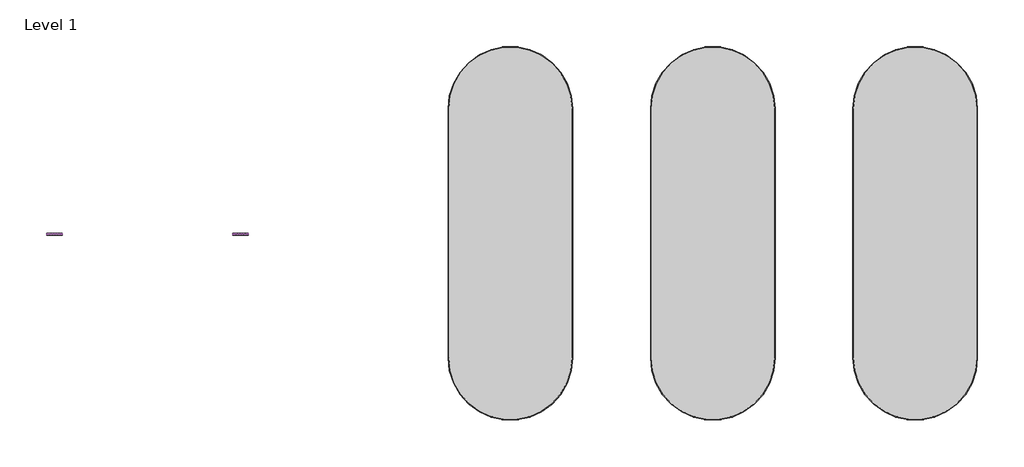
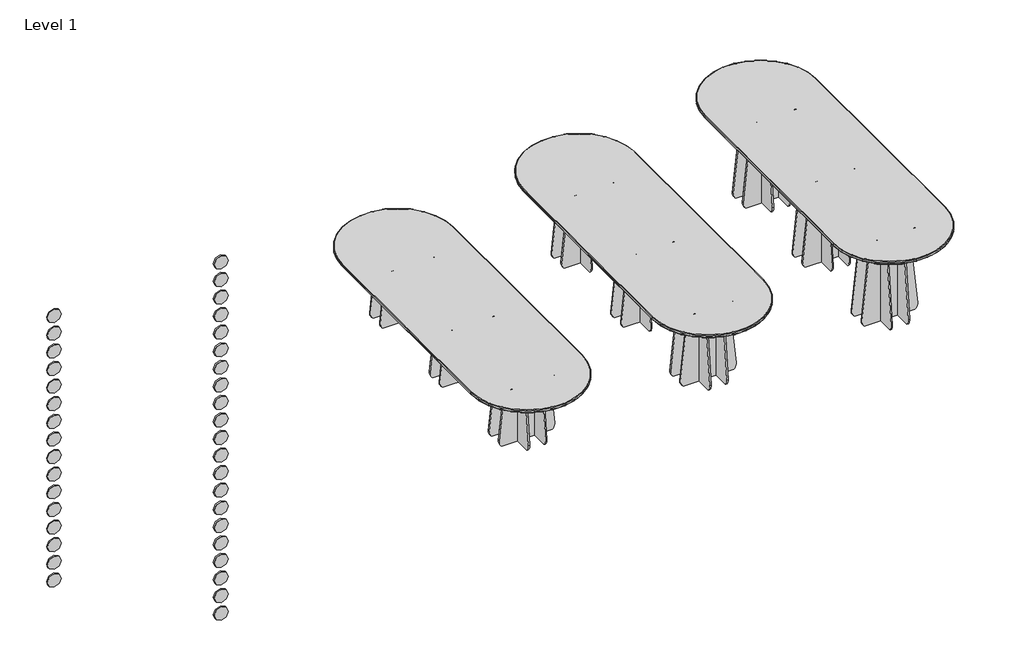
# One storey: 37 proxies, 3 furniture elements.
"""IFC4 building model written with IfcOpenShell, lengths in millimetres."""

from ifc_helpers import new_model, si_unit, origin, place, context, project, spatial, transform, mapped, element, save
from components import materialmodel_materialmodel_7ac49ee1, furniture_6f2a2246, furniture_08dae37b, furniture_582ebe88

model = new_model("IFC4")

# Units and contexts
model_context = context("Model", 3, world=origin())
ifc_project = project(units=[si_unit("LENGTHUNIT", "METRE", prefix="MILLI")], contexts=[model_context])

# Site, building, storey
site = spatial("IfcSite", under=ifc_project)
building = spatial("IfcBuilding", under=site)
storey = spatial("IfcBuildingStorey", under=building, Name="Level 1", Elevation=0.0)

# Proxies
placement = place(None, origin())
materialmodel_materialmodel_shape = materialmodel_materialmodel_7ac49ee1(model_context)
element("IfcBuildingElementProxy", 1, Name="MaterialModel : MaterialModel", ObjectType="MaterialModel : MaterialModel", at=placement, inside=storey, context=model_context, shape_type="MappedRepresentation", body=[
    mapped(materialmodel_materialmodel_shape, transform((-14563.2398028, 705.5961609, 2194.7148789), x_axis=(1.0, 0.0, 0.0), y_axis=(0.0, 1.0, 0.0), z_axis=(0.0, 0.0, 1.0))),
])
element("IfcBuildingElementProxy", 2, Name="MaterialModel : MaterialModel", ObjectType="MaterialModel : MaterialModel", at=placement, inside=storey, context=model_context, shape_type="MappedRepresentation", body=[
    mapped(materialmodel_materialmodel_shape, transform((-14563.2398028, 705.5961609, 1994.3990228), x_axis=(1.0, 0.0, 0.0), y_axis=(0.0, 1.0, 0.0), z_axis=(0.0, 0.0, 1.0))),
])
element("IfcBuildingElementProxy", 3, Name="MaterialModel : MaterialModel", ObjectType="MaterialModel : MaterialModel", at=placement, inside=storey, context=model_context, shape_type="MappedRepresentation", body=[
    mapped(materialmodel_materialmodel_shape, transform((-14563.2398028, 705.5961609, 1794.0831667), x_axis=(1.0, 0.0, 0.0), y_axis=(0.0, 1.0, 0.0), z_axis=(0.0, 0.0, 1.0))),
])
element("IfcBuildingElementProxy", 4, Name="MaterialModel : MaterialModel", ObjectType="MaterialModel : MaterialModel", at=placement, inside=storey, context=model_context, shape_type="MappedRepresentation", body=[
    mapped(materialmodel_materialmodel_shape, transform((-12769.1644389, 705.5961609, 2176.01732), x_axis=(1.0, 0.0, 0.0), y_axis=(0.0, 1.0, 0.0), z_axis=(0.0, 0.0, 1.0))),
])
element("IfcBuildingElementProxy", 5, Name="MaterialModel : MaterialModel", ObjectType="MaterialModel : MaterialModel", at=placement, inside=storey, context=model_context, shape_type="MappedRepresentation", body=[
    mapped(materialmodel_materialmodel_shape, transform((-12769.1644389, 705.5961609, 1976.4514639), x_axis=(1.0, 0.0, 0.0), y_axis=(0.0, 1.0, 0.0), z_axis=(0.0, 0.0, 1.0))),
])
element("IfcBuildingElementProxy", 6, Name="MaterialModel : MaterialModel", ObjectType="MaterialModel : MaterialModel", at=placement, inside=storey, context=model_context, shape_type="MappedRepresentation", body=[
    mapped(materialmodel_materialmodel_shape, transform((-12769.1644389, 705.5961609, 1776.8856078), x_axis=(1.0, 0.0, 0.0), y_axis=(0.0, 1.0, 0.0), z_axis=(0.0, 0.0, 1.0))),
])
element("IfcBuildingElementProxy", 7, Name="MaterialModel : MaterialModel", ObjectType="MaterialModel : MaterialModel", at=placement, inside=storey, context=model_context, shape_type="MappedRepresentation", body=[
    mapped(materialmodel_materialmodel_shape, transform((-12769.1644389, 705.5961609, 1577.3197517), x_axis=(1.0, 0.0, 0.0), y_axis=(0.0, 1.0, 0.0), z_axis=(0.0, 0.0, 1.0))),
])
element("IfcBuildingElementProxy", 8, Name="MaterialModel : MaterialModel", ObjectType="MaterialModel : MaterialModel", at=placement, inside=storey, context=model_context, shape_type="MappedRepresentation", body=[
    mapped(materialmodel_materialmodel_shape, transform((-12769.1644389, 705.5961609, 1377.7538956), x_axis=(1.0, 0.0, 0.0), y_axis=(0.0, 1.0, 0.0), z_axis=(0.0, 0.0, 1.0))),
])
element("IfcBuildingElementProxy", 9, Name="MaterialModel : MaterialModel", ObjectType="MaterialModel : MaterialModel", at=placement, inside=storey, context=model_context, shape_type="MappedRepresentation", body=[
    mapped(materialmodel_materialmodel_shape, transform((-12769.1644389, 705.5961609, 1178.1880395), x_axis=(1.0, 0.0, 0.0), y_axis=(0.0, 1.0, 0.0), z_axis=(0.0, 0.0, 1.0))),
])
element("IfcBuildingElementProxy", 10, Name="MaterialModel : MaterialModel", ObjectType="MaterialModel : MaterialModel", at=placement, inside=storey, context=model_context, shape_type="MappedRepresentation", body=[
    mapped(materialmodel_materialmodel_shape, transform((-12769.1644389, 705.5961609, 978.6221834), x_axis=(1.0, 0.0, 0.0), y_axis=(0.0, 1.0, 0.0), z_axis=(0.0, 0.0, 1.0))),
])
element("IfcBuildingElementProxy", 11, Name="MaterialModel : MaterialModel", ObjectType="MaterialModel : MaterialModel", at=placement, inside=storey, context=model_context, shape_type="MappedRepresentation", body=[
    mapped(materialmodel_materialmodel_shape, transform((-12769.1644389, 705.5961609, 779.0563273), x_axis=(1.0, 0.0, 0.0), y_axis=(0.0, 1.0, 0.0), z_axis=(0.0, 0.0, 1.0))),
])
element("IfcBuildingElementProxy", 12, Name="MaterialModel : MaterialModel", ObjectType="MaterialModel : MaterialModel", at=placement, inside=storey, context=model_context, shape_type="MappedRepresentation", body=[
    mapped(materialmodel_materialmodel_shape, transform((-12769.1644389, 705.5961609, 579.4904712), x_axis=(1.0, 0.0, 0.0), y_axis=(0.0, 1.0, 0.0), z_axis=(0.0, 0.0, 1.0))),
])
element("IfcBuildingElementProxy", 13, Name="MaterialModel : MaterialModel", ObjectType="MaterialModel : MaterialModel", at=placement, inside=storey, context=model_context, shape_type="MappedRepresentation", body=[
    mapped(materialmodel_materialmodel_shape, transform((-12769.1644389, 705.5961609, 379.9246151), x_axis=(1.0, 0.0, 0.0), y_axis=(0.0, 1.0, 0.0), z_axis=(0.0, 0.0, 1.0))),
])
element("IfcBuildingElementProxy", 14, Name="MaterialModel : MaterialModel", ObjectType="MaterialModel : MaterialModel", at=placement, inside=storey, context=model_context, shape_type="MappedRepresentation", body=[
    mapped(materialmodel_materialmodel_shape, transform((-12769.1644389, 705.5961609, 180.358759), x_axis=(1.0, 0.0, 0.0), y_axis=(0.0, 1.0, 0.0), z_axis=(0.0, 0.0, 1.0))),
])
element("IfcBuildingElementProxy", 15, Name="MaterialModel : MaterialModel", ObjectType="MaterialModel : MaterialModel", at=placement, inside=storey, context=model_context, shape_type="MappedRepresentation", body=[
    mapped(materialmodel_materialmodel_shape, transform((-12769.1644389, 705.5961609, -19.2070971), x_axis=(1.0, 0.0, 0.0), y_axis=(0.0, 1.0, 0.0), z_axis=(0.0, 0.0, 1.0))),
])
element("IfcBuildingElementProxy", 16, Name="MaterialModel : MaterialModel", ObjectType="MaterialModel : MaterialModel", at=placement, inside=storey, context=model_context, shape_type="MappedRepresentation", body=[
    mapped(materialmodel_materialmodel_shape, transform((-12769.1644389, 705.5961609, -218.7729532), x_axis=(1.0, 0.0, 0.0), y_axis=(0.0, 1.0, 0.0), z_axis=(0.0, 0.0, 1.0))),
])
element("IfcBuildingElementProxy", 17, Name="MaterialModel : MaterialModel", ObjectType="MaterialModel : MaterialModel", at=placement, inside=storey, context=model_context, shape_type="MappedRepresentation", body=[
    mapped(materialmodel_materialmodel_shape, transform((-12769.1644389, 705.5961609, -418.3388093), x_axis=(1.0, 0.0, 0.0), y_axis=(0.0, 1.0, 0.0), z_axis=(0.0, 0.0, 1.0))),
])
element("IfcBuildingElementProxy", 18, Name="MaterialModel : MaterialModel", ObjectType="MaterialModel : MaterialModel", at=placement, inside=storey, context=model_context, shape_type="MappedRepresentation", body=[
    mapped(materialmodel_materialmodel_shape, transform((-12769.1644389, 705.5961609, -617.9046654), x_axis=(1.0, 0.0, 0.0), y_axis=(0.0, 1.0, 0.0), z_axis=(0.0, 0.0, 1.0))),
])
element("IfcBuildingElementProxy", 19, Name="MaterialModel : MaterialModel", ObjectType="MaterialModel : MaterialModel", at=placement, inside=storey, context=model_context, shape_type="MappedRepresentation", body=[
    mapped(materialmodel_materialmodel_shape, transform((-12769.1644389, 705.5961609, -817.4705215), x_axis=(1.0, 0.0, 0.0), y_axis=(0.0, 1.0, 0.0), z_axis=(0.0, 0.0, 1.0))),
])
element("IfcBuildingElementProxy", 20, Name="MaterialModel : MaterialModel", ObjectType="MaterialModel : MaterialModel", at=placement, inside=storey, context=model_context, shape_type="MappedRepresentation", body=[
    mapped(materialmodel_materialmodel_shape, transform((-12769.1644389, 705.5961609, -1017.0363776), x_axis=(1.0, 0.0, 0.0), y_axis=(0.0, 1.0, 0.0), z_axis=(0.0, 0.0, 1.0))),
])
element("IfcBuildingElementProxy", 21, Name="MaterialModel : MaterialModel", ObjectType="MaterialModel : MaterialModel", at=placement, inside=storey, context=model_context, shape_type="MappedRepresentation", body=[
    mapped(materialmodel_materialmodel_shape, transform((-12769.1644389, 705.5961609, -1216.6022337), x_axis=(1.0, 0.0, 0.0), y_axis=(0.0, 1.0, 0.0), z_axis=(0.0, 0.0, 1.0))),
])
element("IfcBuildingElementProxy", 22, Name="MaterialModel : MaterialModel", ObjectType="MaterialModel : MaterialModel", at=placement, inside=storey, context=model_context, shape_type="MappedRepresentation", body=[
    mapped(materialmodel_materialmodel_shape, transform((-12769.1644389, 705.5961609, -1416.1680898), x_axis=(1.0, 0.0, 0.0), y_axis=(0.0, 1.0, 0.0), z_axis=(0.0, 0.0, 1.0))),
])
element("IfcBuildingElementProxy", 23, Name="MaterialModel : MaterialModel", ObjectType="MaterialModel : MaterialModel", at=placement, inside=storey, context=model_context, shape_type="MappedRepresentation", body=[
    mapped(materialmodel_materialmodel_shape, transform((-12769.1644389, 705.5961609, -1615.7339459), x_axis=(1.0, 0.0, 0.0), y_axis=(0.0, 1.0, 0.0), z_axis=(0.0, 0.0, 1.0))),
])
element("IfcBuildingElementProxy", 24, Name="MaterialModel : MaterialModel", ObjectType="MaterialModel : MaterialModel", at=placement, inside=storey, context=model_context, shape_type="MappedRepresentation", body=[
    mapped(materialmodel_materialmodel_shape, transform((-12769.1644389, 705.5961609, -1815.299802), x_axis=(1.0, 0.0, 0.0), y_axis=(0.0, 1.0, 0.0), z_axis=(0.0, 0.0, 1.0))),
])
element("IfcBuildingElementProxy", 25, Name="MaterialModel : MaterialModel", ObjectType="MaterialModel : MaterialModel", at=placement, inside=storey, context=model_context, shape_type="MappedRepresentation", body=[
    mapped(materialmodel_materialmodel_shape, transform((-14563.2398028, 705.5961609, 1593.7673106), x_axis=(1.0, 0.0, 0.0), y_axis=(0.0, 1.0, 0.0), z_axis=(0.0, 0.0, 1.0))),
])
element("IfcBuildingElementProxy", 26, Name="MaterialModel : MaterialModel", ObjectType="MaterialModel : MaterialModel", at=placement, inside=storey, context=model_context, shape_type="MappedRepresentation", body=[
    mapped(materialmodel_materialmodel_shape, transform((-14563.2398028, 705.5961609, 1393.4514546), x_axis=(1.0, 0.0, 0.0), y_axis=(0.0, 1.0, 0.0), z_axis=(0.0, 0.0, 1.0))),
])
element("IfcBuildingElementProxy", 27, Name="MaterialModel : MaterialModel", ObjectType="MaterialModel : MaterialModel", at=placement, inside=storey, context=model_context, shape_type="MappedRepresentation", body=[
    mapped(materialmodel_materialmodel_shape, transform((-14563.2398028, 705.5961609, 1193.1355985), x_axis=(1.0, 0.0, 0.0), y_axis=(0.0, 1.0, 0.0), z_axis=(0.0, 0.0, 1.0))),
])
element("IfcBuildingElementProxy", 28, Name="MaterialModel : MaterialModel", ObjectType="MaterialModel : MaterialModel", at=placement, inside=storey, context=model_context, shape_type="MappedRepresentation", body=[
    mapped(materialmodel_materialmodel_shape, transform((-14563.2398028, 705.5961609, 992.8197424), x_axis=(1.0, 0.0, 0.0), y_axis=(0.0, 1.0, 0.0), z_axis=(0.0, 0.0, 1.0))),
])
element("IfcBuildingElementProxy", 29, Name="MaterialModel : MaterialModel", ObjectType="MaterialModel : MaterialModel", at=placement, inside=storey, context=model_context, shape_type="MappedRepresentation", body=[
    mapped(materialmodel_materialmodel_shape, transform((-14563.2398028, 705.5961609, 792.5038863), x_axis=(1.0, 0.0, 0.0), y_axis=(0.0, 1.0, 0.0), z_axis=(0.0, 0.0, 1.0))),
])
element("IfcBuildingElementProxy", 30, Name="MaterialModel : MaterialModel", ObjectType="MaterialModel : MaterialModel", at=placement, inside=storey, context=model_context, shape_type="MappedRepresentation", body=[
    mapped(materialmodel_materialmodel_shape, transform((-14563.2398028, 705.5961609, 592.1880302), x_axis=(1.0, 0.0, 0.0), y_axis=(0.0, 1.0, 0.0), z_axis=(0.0, 0.0, 1.0))),
])
element("IfcBuildingElementProxy", 31, Name="MaterialModel : MaterialModel", ObjectType="MaterialModel : MaterialModel", at=placement, inside=storey, context=model_context, shape_type="MappedRepresentation", body=[
    mapped(materialmodel_materialmodel_shape, transform((-14563.2398028, 705.5961609, 391.8721741), x_axis=(1.0, 0.0, 0.0), y_axis=(0.0, 1.0, 0.0), z_axis=(0.0, 0.0, 1.0))),
])
element("IfcBuildingElementProxy", 32, Name="MaterialModel : MaterialModel", ObjectType="MaterialModel : MaterialModel", at=placement, inside=storey, context=model_context, shape_type="MappedRepresentation", body=[
    mapped(materialmodel_materialmodel_shape, transform((-14563.2398028, 705.5961609, 191.556318), x_axis=(1.0, 0.0, 0.0), y_axis=(0.0, 1.0, 0.0), z_axis=(0.0, 0.0, 1.0))),
])
element("IfcBuildingElementProxy", 33, Name="MaterialModel : MaterialModel", ObjectType="MaterialModel : MaterialModel", at=placement, inside=storey, context=model_context, shape_type="MappedRepresentation", body=[
    mapped(materialmodel_materialmodel_shape, transform((-14563.2398028, 705.5961609, -8.7595381), x_axis=(1.0, 0.0, 0.0), y_axis=(0.0, 1.0, 0.0), z_axis=(0.0, 0.0, 1.0))),
])
element("IfcBuildingElementProxy", 34, Name="MaterialModel : MaterialModel", ObjectType="MaterialModel : MaterialModel", at=placement, inside=storey, context=model_context, shape_type="MappedRepresentation", body=[
    mapped(materialmodel_materialmodel_shape, transform((-14563.2398028, 705.5961609, -209.0753942), x_axis=(1.0, 0.0, 0.0), y_axis=(0.0, 1.0, 0.0), z_axis=(0.0, 0.0, 1.0))),
])
element("IfcBuildingElementProxy", 35, Name="MaterialModel : MaterialModel", ObjectType="MaterialModel : MaterialModel", at=placement, inside=storey, context=model_context, shape_type="MappedRepresentation", body=[
    mapped(materialmodel_materialmodel_shape, transform((-14563.2398028, 705.5961609, -409.3912503), x_axis=(1.0, 0.0, 0.0), y_axis=(0.0, 1.0, 0.0), z_axis=(0.0, 0.0, 1.0))),
])
element("IfcBuildingElementProxy", 36, Name="MaterialModel : MaterialModel", ObjectType="MaterialModel : MaterialModel", at=placement, inside=storey, context=model_context, shape_type="MappedRepresentation", body=[
    mapped(materialmodel_materialmodel_shape, transform((-14563.2398028, 705.5961609, -609.7071064), x_axis=(1.0, 0.0, 0.0), y_axis=(0.0, 1.0, 0.0), z_axis=(0.0, 0.0, 1.0))),
])
element("IfcBuildingElementProxy", 37, Name="MaterialModel : MaterialModel", ObjectType="MaterialModel : MaterialModel", at=placement, inside=storey, context=model_context, shape_type="MappedRepresentation", body=[
    mapped(materialmodel_materialmodel_shape, transform((-14563.2398028, 705.5961609, -810.0229625), x_axis=(1.0, 0.0, 0.0), y_axis=(0.0, 1.0, 0.0), z_axis=(0.0, 0.0, 1.0))),
])

# Furniture
furniture_shape = furniture_6f2a2246(model_context)
element("IfcFurniture", 38, ObjectType="Lundbergs Möbler - Funghi Ovale - Table - Oval - 360x120 - H105 : Lundbergs Möbler - Funghi Ovale - Table - Oval - 360x120 - H105", at=placement, inside=storey, context=model_context, shape_type="MappedRepresentation", body=[
    mapped(furniture_shape, transform((-6268.8878123, 713.4424658, 0.0), x_axis=(0.0, -1.0, 0.0), y_axis=(1.0, 0.0, 0.0), z_axis=(0.0, 0.0, 1.0))),
])
furniture_2_shape = furniture_08dae37b(model_context)
element("IfcFurniture", 39, ObjectType="Lundbergs Möbler - Funghi Ovale - Table - Oval - 360x120 - H90 : Lundbergs Möbler - Funghi Ovale - Table - Oval - 360x120 - H90", at=placement, inside=storey, context=model_context, shape_type="MappedRepresentation", body=[
    mapped(furniture_2_shape, transform((-8218.8878123, 713.4424658, 0.0), x_axis=(0.0, -1.0, 0.0), y_axis=(1.0, 0.0, 0.0), z_axis=(0.0, 0.0, 1.0))),
])
furniture_3_shape = furniture_582ebe88(model_context)
element("IfcFurniture", 40, ObjectType="Lundbergs Möbler - Funghi Ovale - Table - Oval - 360x120 - H73 : Lundbergs Möbler - Funghi Ovale - Table - Oval - 360x120 - H73", at=placement, inside=storey, context=model_context, shape_type="MappedRepresentation", body=[
    mapped(furniture_3_shape, transform((-10168.8878123, 713.4424658, 0.0), x_axis=(0.0, -1.0, 0.0), y_axis=(1.0, 0.0, 0.0), z_axis=(0.0, 0.0, 1.0))),
])

save(model, "model.ifc")
